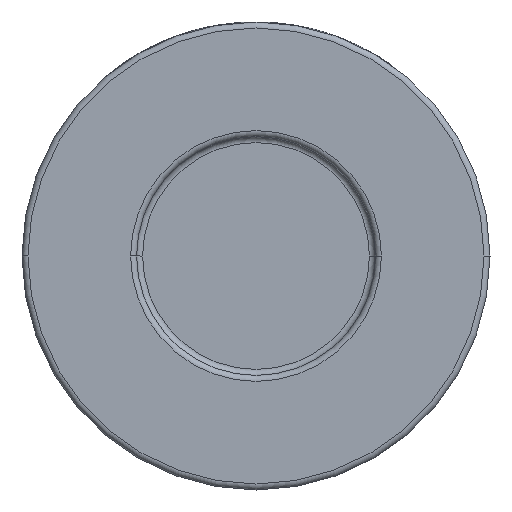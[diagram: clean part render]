
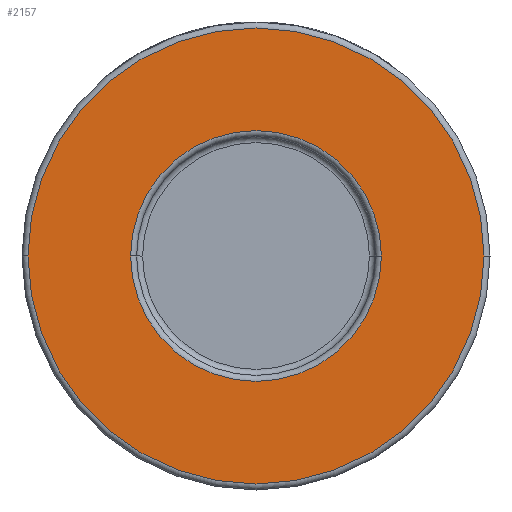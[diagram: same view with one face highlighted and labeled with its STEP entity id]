
A CAD part, front view. The second image highlights one B-rep face of the part: STEP entity #2157.
In plain terms, the highlighted planar face has unit normal (0, -1, 0).
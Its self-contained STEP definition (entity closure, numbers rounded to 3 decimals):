
#64 = VERTEX_POINT ( 'NONE', #4345 ) ;
#211 = AXIS2_PLACEMENT_3D ( 'NONE', #380, #1139, #2905 ) ;
#380 = CARTESIAN_POINT ( 'NONE',  ( 39., -26., 0. ) ) ;
#446 = CARTESIAN_POINT ( 'NONE',  ( 0., -26., 0. ) ) ;
#677 = CARTESIAN_POINT ( 'NONE',  ( 0., -26., 0. ) ) ;
#710 = FACE_OUTER_BOUND ( 'NONE', #2127, .T. ) ;
#718 = EDGE_CURVE ( 'NONE', #4199, #1490, #3942, .T. ) ;
#1029 = CIRCLE ( 'NONE', #4340, 38. ) ;
#1051 = ORIENTED_EDGE ( 'NONE', *, *, #3595, .T. ) ;
#1080 = CARTESIAN_POINT ( 'NONE',  ( -20.9, -26., 0. ) ) ;
#1139 = DIRECTION ( 'NONE',  ( 0., -1., 0. ) ) ;
#1185 = ORIENTED_EDGE ( 'NONE', *, *, #2937, .T. ) ;
#1203 = DIRECTION ( 'NONE',  ( 0., 1., 0. ) ) ;
#1468 = FACE_BOUND ( 'NONE', #4236, .T. ) ;
#1490 = VERTEX_POINT ( 'NONE', #2837 ) ;
#1513 = DIRECTION ( 'NONE',  ( 1., 0., 0. ) ) ;
#1573 = AXIS2_PLACEMENT_3D ( 'NONE', #4313, #3628, #3608 ) ;
#1742 = DIRECTION ( 'NONE',  ( 0., -1., 0. ) ) ;
#1761 = DIRECTION ( 'NONE',  ( 1., 0., 0. ) ) ;
#1851 = AXIS2_PLACEMENT_3D ( 'NONE', #3669, #1203, #3644 ) ;
#1944 = EDGE_CURVE ( 'NONE', #1490, #4199, #1029, .T. ) ;
#2127 = EDGE_LOOP ( 'NONE', ( #3436, #4393 ) ) ;
#2157 = ADVANCED_FACE ( 'NONE', ( #1468, #710 ), #3613, .T. ) ;
#2539 = CIRCLE ( 'NONE', #1573, 20.9 ) ;
#2837 = CARTESIAN_POINT ( 'NONE',  ( 38., -26., 0. ) ) ;
#2905 = DIRECTION ( 'NONE',  ( 1., 0., 0. ) ) ;
#2937 = EDGE_CURVE ( 'NONE', #64, #3981, #3447, .T. ) ;
#3436 = ORIENTED_EDGE ( 'NONE', *, *, #1944, .T. ) ;
#3447 = CIRCLE ( 'NONE', #1851, 20.9 ) ;
#3563 = AXIS2_PLACEMENT_3D ( 'NONE', #446, #3770, #1513 ) ;
#3595 = EDGE_CURVE ( 'NONE', #3981, #64, #2539, .T. ) ;
#3608 = DIRECTION ( 'NONE',  ( 1., 0., 0. ) ) ;
#3613 = PLANE ( 'NONE',  #211 ) ;
#3628 = DIRECTION ( 'NONE',  ( 0., 1., 0. ) ) ;
#3644 = DIRECTION ( 'NONE',  ( 1., 0., 0. ) ) ;
#3669 = CARTESIAN_POINT ( 'NONE',  ( 0., -26., 0. ) ) ;
#3770 = DIRECTION ( 'NONE',  ( 0., -1., 0. ) ) ;
#3942 = CIRCLE ( 'NONE', #3563, 38. ) ;
#3981 = VERTEX_POINT ( 'NONE', #1080 ) ;
#4199 = VERTEX_POINT ( 'NONE', #4273 ) ;
#4236 = EDGE_LOOP ( 'NONE', ( #1185, #1051 ) ) ;
#4273 = CARTESIAN_POINT ( 'NONE',  ( -38., -26., 0. ) ) ;
#4313 = CARTESIAN_POINT ( 'NONE',  ( 0., -26., 0. ) ) ;
#4340 = AXIS2_PLACEMENT_3D ( 'NONE', #677, #1742, #1761 ) ;
#4345 = CARTESIAN_POINT ( 'NONE',  ( 20.9, -26., 0. ) ) ;
#4393 = ORIENTED_EDGE ( 'NONE', *, *, #718, .T. ) ;
